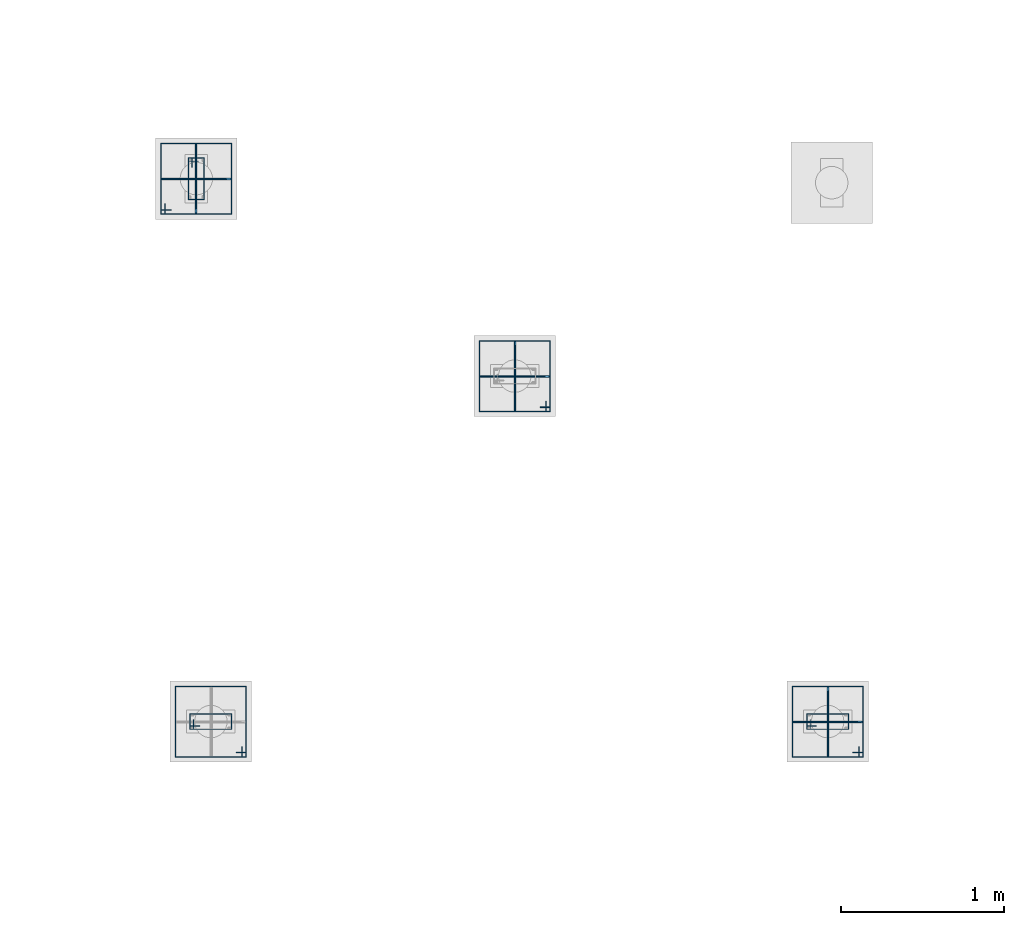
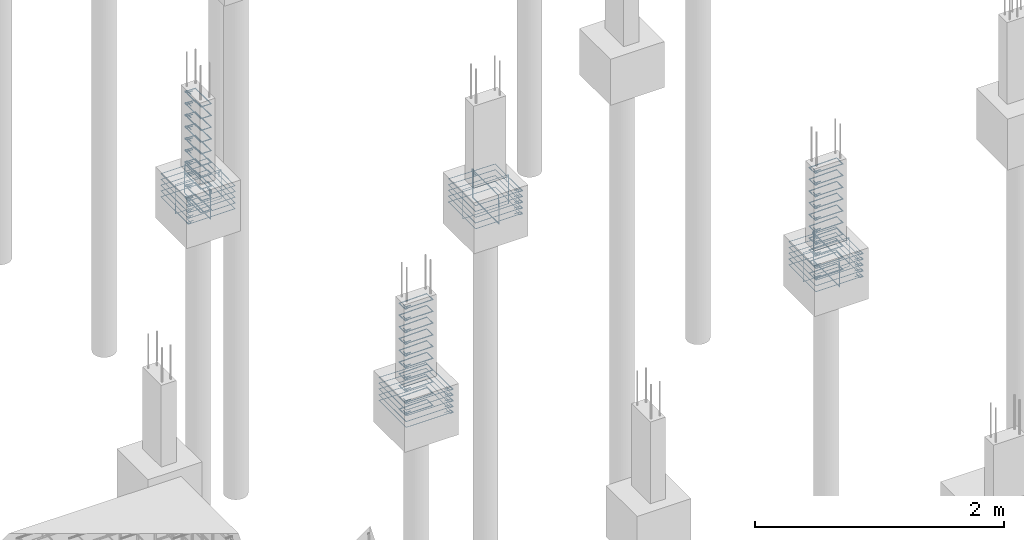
# One storey, part 79 of 119: 56 reinforcing bars.
"""IFC4 building model written with IfcOpenShell, lengths in centimetres."""

import ifcopenshell
import ifcopenshell.guid

model = None  # the IFC model being written
_history = None  # IfcOwnerHistory: only IFC2X3 demands one
_inside = {}  # id of a spatial element -> (the spatial element, [elements in it])
_under = {}  # id of a project, library or spatial element -> (it, [spatial elements below it])
_declared = {}  # id of a project -> (the project, [libraries it declares])
_typed = {}  # id of a type object -> (the type object, [elements of that type])
_made_of = {}  # id of a material, layer set ... -> (it, [elements and type objects made of it])


def new_model(schema):
    """Start an empty IFC model of exactly this schema.

    Asked for "IFC4X3", IfcOpenShell would pick the latest addendum, in which some entities
    have other attributes; the version numbers below select the first issue.
    IFC2X3 requires an IfcOwnerHistory on every rooted entity: one is made here for all.
    """
    global model, _history
    if schema == "IFC4X3":
        model = ifcopenshell.file(schema_version=(4, 3, 0, 0))
    else:
        model = ifcopenshell.file(schema=schema)
    _inside.clear()
    _under.clear()
    _declared.clear()
    _typed.clear()
    _made_of.clear()
    _history = None
    if model.schema == "IFC2X3":
        org = make("IfcOrganization", Name="unknown")
        user = make(
            "IfcPersonAndOrganization",
            ThePerson=make("IfcPerson", FamilyName="unknown"),
            TheOrganization=org,
        )
        app = make(
            "IfcApplication",
            ApplicationDeveloper=org,
            Version="unknown",
            ApplicationFullName="unknown",
            ApplicationIdentifier="unknown",
        )
        _history = make(
            "IfcOwnerHistory",
            OwningUser=user,
            OwningApplication=app,
            ChangeAction="ADDED",
            CreationDate=0,
        )
    return model


def make(cls, **values):
    """One entity of the class cls with the attributes given. An attribute that is None is left unset."""
    return model.create_entity(
        cls, **{name: value for name, value in values.items() if value is not None}
    )


def entity(cls, *values):
    """Any entity or typed value of the class cls, its attributes in the order of the schema. None: left unset."""
    e = model.create_entity(cls)
    for i, value in enumerate(values):
        if value is not None:
            e[i] = value
    return e


def rooted(cls, **values):
    """An entity with a GlobalId (a new one), such as an element, a storey or a relation."""
    return make(cls, GlobalId=ifcopenshell.guid.new(), OwnerHistory=_history, **values)


def si_unit(unit_type, name, prefix=None):
    """IfcSIUnit, for example si_unit("LENGTHUNIT", "METRE", prefix="MILLI")."""
    return make("IfcSIUnit", UnitType=unit_type, Prefix=prefix, Name=name)


def derived_unit(unit_type, elements):
    """IfcDerivedUnit: a product of units, each with its exponent."""
    return make(
        "IfcDerivedUnit",
        Elements=[
            make("IfcDerivedUnitElement", Unit=unit, Exponent=power)
            for unit, power in elements
        ],
        UnitType=unit_type,
    )


def assignment(units):
    """IfcUnitAssignment: the units of a project."""
    return None if units is None else make("IfcUnitAssignment", Units=units)


def point(xyz):
    """IfcCartesianPoint."""
    return None if xyz is None else make("IfcCartesianPoint", Coordinates=xyz)


def direction(xyz):
    """IfcDirection."""
    return None if xyz is None else make("IfcDirection", DirectionRatios=xyz)


def frame(location, z_axis=None, x_axis=None):
    """IfcAxis2Placement3D, a coordinate frame: its origin and axes. An axis left out is left unset."""
    return make(
        "IfcAxis2Placement3D",
        Location=point(location),
        Axis=direction(z_axis),
        RefDirection=direction(x_axis),
    )


def origin_with_axes():
    """The frame at (0, 0, 0) with the z axis (0, 0, 1) and the x axis (1, 0, 0) written out."""
    return frame((0.0, 0.0, 0.0), z_axis=(0.0, 0.0, 1.0), x_axis=(1.0, 0.0, 0.0))


def place(relative_to, where):
    """IfcLocalPlacement: puts the frame where relative to a parent placement (None: the world)."""
    return make(
        "IfcLocalPlacement", PlacementRelTo=relative_to, RelativePlacement=where
    )


def context(
    kind, dimensions, precision=None, world=None, true_north=None, identifier=None
):
    """IfcGeometricRepresentationContext, for example the 3D "Model" context."""
    return make(
        "IfcGeometricRepresentationContext",
        ContextIdentifier=identifier,
        ContextType=kind,
        CoordinateSpaceDimension=dimensions,
        Precision=precision,
        WorldCoordinateSystem=world,
        TrueNorth=true_north,
    )


def project(units=None, contexts=None):
    """IfcProject with its units and contexts."""
    return rooted(
        "IfcProject",
        Name="project",
        RepresentationContexts=contexts,
        UnitsInContext=assignment(units),
    )


def spatial(cls, under=None, at=None, **own):
    """A site, building, storey or space (cls), placed at a placement, below another one or the project."""
    s = rooted(cls, ObjectPlacement=at, **own)
    if under is not None:
        _under.setdefault(under.id(), (under, []))[1].append(s)
    return s


def shape(context_of_items, identifier, shape_type, items):
    """IfcShapeRepresentation: the items that make up one representation, for example the "Body"."""
    return make(
        "IfcShapeRepresentation",
        ContextOfItems=context_of_items,
        RepresentationIdentifier=identifier,
        RepresentationType=shape_type,
        Items=items,
    )


def source(mapping_origin, context_of_items, identifier, shape_type, items):
    """IfcRepresentationMap: a shape defined once, which mapped items show again and again."""
    return make(
        "IfcRepresentationMap",
        MappingOrigin=mapping_origin,
        MappedRepresentation=shape(context_of_items, identifier, shape_type, items),
    )


def transform(
    local_origin,
    x_axis=None,
    y_axis=None,
    z_axis=None,
    scale=None,
    scale2=None,
    scale3=None,
    uniform=True,
):
    """IfcCartesianTransformationOperator3D, or its non-uniform kind. x_axis, y_axis, z_axis: its Axis1, 2, 3."""
    if uniform:
        return make(
            "IfcCartesianTransformationOperator3D",
            Axis1=direction(x_axis),
            Axis2=direction(y_axis),
            LocalOrigin=point(local_origin),
            Scale=scale,
            Axis3=direction(z_axis),
        )
    return make(
        "IfcCartesianTransformationOperator3DnonUniform",
        Axis1=direction(x_axis),
        Axis2=direction(y_axis),
        LocalOrigin=point(local_origin),
        Scale=scale,
        Axis3=direction(z_axis),
        Scale2=scale2,
        Scale3=scale3,
    )


def mapped(mapping_source, mapping_target):
    """IfcMappedItem: shows the shape of a source again, moved by a transform."""
    return make(
        "IfcMappedItem", MappingSource=mapping_source, MappingTarget=mapping_target
    )


def made_of(thing, what):
    """Note that an element or type object is made of a material, layer set ...; save() writes the relation."""
    if what is not None:
        _made_of.setdefault(what.id(), (what, []))[1].append(thing)
    return thing


def element(
    cls,
    number,
    at=None,
    inside=None,
    cuts=None,
    type_object=None,
    material=None,
    context=None,
    identifier="Body",
    shape_type=None,
    held_by="IfcProductDefinitionShape",
    body=None,
    shapes=None,
    **own,
):
    """One element of the class cls, such as IfcWall. Its Tag is "e" and its number.

    at: its placement. inside: the storey or other place that contains it. cuts: it is an
    opening in that element (IfcRelVoidsElement). A single representation is given by context,
    identifier, shape_type and body (its items); several are given by shapes. held_by: the class
    of the entity that holds the representations. save() writes the other relations.
    """
    e = rooted(cls, Tag="e%d" % number, ObjectPlacement=at, **own)
    if body is not None:
        shapes = [shape(context, identifier, shape_type, body)]
    if shapes is not None:
        e.Representation = make(held_by, Representations=shapes)
    if inside is not None:
        _inside.setdefault(inside.id(), (inside, []))[1].append(e)
    if cuts is not None:
        rooted(
            "IfcRelVoidsElement", RelatingBuildingElement=cuts, RelatedOpeningElement=e
        )
    if type_object is not None:
        _typed.setdefault(type_object.id(), (type_object, []))[1].append(e)
    return made_of(e, material)


def aggregate(whole, parts):
    """IfcRelAggregates: a whole, such as a stair, and the parts it consists of."""
    return rooted("IfcRelAggregates", RelatingObject=whole, RelatedObjects=parts)


def save(model, path):
    """Write the relations noted so far, then the file.

    IfcRelAggregates (storeys below a building ...), IfcRelContainedInSpatialStructure (elements
    in a storey), IfcRelDefinesByType, IfcRelAssociatesMaterial and IfcRelDeclares: one each for
    every whole, place, type object, material and project.
    """
    for whole, parts in _under.values():
        aggregate(whole, parts)
    for where, things in _inside.values():
        rooted(
            "IfcRelContainedInSpatialStructure",
            RelatedElements=things,
            RelatingStructure=where,
        )
    for kind, things in _typed.values():
        rooted("IfcRelDefinesByType", RelatedObjects=things, RelatingType=kind)
    for what, things in _made_of.values():
        rooted("IfcRelAssociatesMaterial", RelatedObjects=things, RelatingMaterial=what)
    for by, libraries in _declared.values():
        rooted("IfcRelDeclares", RelatingContext=by, RelatedDefinitions=libraries)
    model.write(path)


model = new_model("IFC4")

# Units and contexts
model_context = context("Model", 3, precision=1e-05, world=origin_with_axes(), identifier="Body")
ifc_project = project(units=[si_unit("LENGTHUNIT", "METRE", prefix="CENTI"), si_unit("VOLUMEUNIT", "CUBIC_METRE"), si_unit("AREAUNIT", "SQUARE_METRE"), si_unit("POWERUNIT", "WATT"), si_unit("LUMINOUSFLUXUNIT", "LUMEN"), si_unit("ELECTRICCURRENTUNIT", "AMPERE"), si_unit("PRESSUREUNIT", "PASCAL", prefix="KILO"), si_unit("MASSUNIT", "GRAM", prefix="KILO"), si_unit("PLANEANGLEUNIT", "RADIAN"), derived_unit("VOLUMETRICFLOWRATEUNIT", [(si_unit("LENGTHUNIT", "METRE"), 3), (si_unit("TIMEUNIT", "SECOND"), -1)])], contexts=[model_context])

# Site, building, storey
site_placement = place(None, frame((-4000.0, 0.0, 0.0), z_axis=(0.0, 0.0, 1.0), x_axis=(1.0, 0.0, 0.0)))
site = spatial("IfcSite", under=ifc_project, at=site_placement, Name="PADRÃO")
building_placement = place(site_placement, frame((0.0, 0.0, -14.0)))
building = spatial("IfcBuilding", under=site, at=building_placement, Name="CRECHE PRÉ-ESCOLA TIPO 2")
storey_placement = place(building_placement, origin_with_axes())
storey = spatial("IfcBuildingStorey", under=building, at=storey_placement, Name="FUNDAÇÃO", CompositionType="ELEMENT", Elevation=-14.0)

# Reinforcing bars
shared_shape_1 = source(origin_with_axes(), model_context, "Body", "AdvancedSweptSolid", [
    entity("IfcSweptDiskSolid", entity("IfcCompositeCurve", [entity("IfcCompositeCurveSegment", "CONTINUOUS", True, entity("IfcPolyline", [entity("IfcCartesianPoint", [4.25, 21.75, 0.0]), entity("IfcCartesianPoint", [4.25, 27.75, 0.0])])), entity("IfcCompositeCurveSegment", "CONTINUOUS", True, entity("IfcPolyline", [entity("IfcCartesianPoint", [4.25, 27.75, 0.0]), entity("IfcCartesianPoint", [2.25, 27.75, 0.0])])), entity("IfcCompositeCurveSegment", "CONTINUOUS", True, entity("IfcPolyline", [entity("IfcCartesianPoint", [2.25, 27.75, 0.0]), entity("IfcCartesianPoint", [2.25, 2.25, 0.0])])), entity("IfcCompositeCurveSegment", "CONTINUOUS", True, entity("IfcPolyline", [entity("IfcCartesianPoint", [2.25, 2.25, 0.0]), entity("IfcCartesianPoint", [11.75, 2.25, 0.0])])), entity("IfcCompositeCurveSegment", "CONTINUOUS", True, entity("IfcPolyline", [entity("IfcCartesianPoint", [11.75, 2.25, 0.0]), entity("IfcCartesianPoint", [11.75, 27.75, -0.5])])), entity("IfcCompositeCurveSegment", "CONTINUOUS", True, entity("IfcPolyline", [entity("IfcCartesianPoint", [11.75, 27.75, -0.5]), entity("IfcCartesianPoint", [2.25, 27.75, -0.5])])), entity("IfcCompositeCurveSegment", "CONTINUOUS", True, entity("IfcPolyline", [entity("IfcCartesianPoint", [2.25, 27.75, -0.5]), entity("IfcCartesianPoint", [2.25, 25.75, -0.5])])), entity("IfcCompositeCurveSegment", "CONTINUOUS", True, entity("IfcPolyline", [entity("IfcCartesianPoint", [2.25, 25.75, -0.5]), entity("IfcCartesianPoint", [8.25, 25.75, -0.5])]))], False), 0.25),
])
for number, where, z_axis, x_axis, name in (
    (1, (3151.0, 408.01, -28.75), (0.0, 0.0, 1.0), (0.0, 1.0, 0.0), "P148 - Estribo"),
    (2, (3151.0, 408.01, -109.25), (0.0, 0.0, 1.0), (0.0, 1.0, 0.0), "P148 - Estribo"),
    (3, (3151.0, 408.01, -5.75), (0.0, 0.0, 1.0), (0.0, 1.0, 0.0), "P148 - Estribo"),
    (4, (3151.0, 408.01, -17.25), (0.0, 0.0, 1.0), (0.0, 1.0, 0.0), "P148 - Estribo"),
    (5, (3151.0, 408.01, -40.25), (0.0, 0.0, 1.0), (0.0, 1.0, 0.0), "P148 - Estribo"),
    (6, (3151.0, 408.01, -51.75), (0.0, 0.0, 1.0), (0.0, 1.0, 0.0), "P148 - Estribo"),
    (7, (3151.0, 408.01, -63.25), (0.0, 0.0, 1.0), (0.0, 1.0, 0.0), "P148 - Estribo"),
    (8, (3151.0, 408.01, -74.75), (0.0, 0.0, 1.0), (0.0, 1.0, 0.0), "P148 - Estribo"),
    (9, (3151.0, 408.01, -86.25), (0.0, 0.0, 1.0), (0.0, 1.0, 0.0), "P148 - Estribo"),
    (10, (3151.0, 408.01, -97.75), (0.0, 0.0, 1.0), (0.0, 1.0, 0.0), "P148 - Estribo"),
):
    element("IfcReinforcingBar", number, at=place(storey_placement, frame(where, z_axis=z_axis, x_axis=x_axis)), inside=storey, Name=name, BarLength=0.0, CrossSectionArea=1.9634954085e-05, NominalDiameter=0.5, PredefinedType="MAIN", context=model_context, shape_type="MappedRepresentation", body=[
        mapped(shared_shape_1, transform((0.0, 0.0, 0.0), scale=1.0)),
    ])
shared_shape_2 = source(origin_with_axes(), model_context, "Body", "AdvancedSweptSolid", [
    entity("IfcSweptDiskSolid", entity("IfcCompositeCurve", [entity("IfcCompositeCurveSegment", "CONTINUOUS", True, entity("IfcPolyline", [entity("IfcCartesianPoint", [3155.165, 399.585, 0.0]), entity("IfcCartesianPoint", [3155.165, 393.325, 0.0])])), entity("IfcCompositeCurveSegment", "CONTINUOUS", True, entity("IfcPolyline", [entity("IfcCartesianPoint", [3155.165, 393.325, 0.0]), entity("IfcCartesianPoint", [3157.685, 393.325, 0.0])])), entity("IfcCompositeCurveSegment", "CONTINUOUS", True, entity("IfcPolyline", [entity("IfcCartesianPoint", [3157.685, 393.325, 0.0]), entity("IfcCartesianPoint", [3157.685, 436.695, 0.0])])), entity("IfcCompositeCurveSegment", "CONTINUOUS", True, entity("IfcPolyline", [entity("IfcCartesianPoint", [3157.685, 436.695, 0.0]), entity("IfcCartesianPoint", [3114.315, 436.695, 0.63])])), entity("IfcCompositeCurveSegment", "CONTINUOUS", True, entity("IfcPolyline", [entity("IfcCartesianPoint", [3114.315, 436.695, 0.63]), entity("IfcCartesianPoint", [3114.315, 393.325, 0.63])])), entity("IfcCompositeCurveSegment", "CONTINUOUS", True, entity("IfcPolyline", [entity("IfcCartesianPoint", [3114.315, 393.325, 0.63]), entity("IfcCartesianPoint", [3157.685, 393.325, 0.63])])), entity("IfcCompositeCurveSegment", "CONTINUOUS", True, entity("IfcPolyline", [entity("IfcCartesianPoint", [3157.685, 393.325, 0.63]), entity("IfcCartesianPoint", [3157.685, 395.845, 0.63])])), entity("IfcCompositeCurveSegment", "CONTINUOUS", True, entity("IfcPolyline", [entity("IfcCartesianPoint", [3157.685, 395.845, 0.63]), entity("IfcCartesianPoint", [3151.425, 395.845, 0.63])]))], False), 0.315),
])
for number, where, z_axis, x_axis, name in (
    (11, (0.0, 0.0, -86.575), (0.0, 0.0, 1.0), (1.0, 0.0, 0.0), "P148 - Blocos (estribos)"),
    (12, (0.0, 0.0, -92.225), (0.0, 0.0, 1.0), (1.0, 0.0, 0.0), "P148 - Blocos (estribos)"),
    (13, (0.0, 0.0, -97.875), (0.0, 0.0, 1.0), (1.0, 0.0, 0.0), "P148 - Blocos (estribos)"),
    (14, (0.0, 0.0, -109.175), (0.0, 0.0, 1.0), (1.0, 0.0, 0.0), "P148 - Blocos (estribos)"),
    (15, (0.0, 0.0, -103.525), (0.0, 0.0, 1.0), (1.0, 0.0, 0.0), "P148 - Blocos (estribos)"),
):
    element("IfcReinforcingBar", number, at=place(storey_placement, frame(where, z_axis=z_axis, x_axis=x_axis)), inside=storey, Name=name, BarLength=0.0, CrossSectionArea=3.1172453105e-05, NominalDiameter=0.63, PredefinedType="MAIN", context=model_context, shape_type="MappedRepresentation", body=[
        mapped(shared_shape_2, transform((0.0, 0.0, 0.0), scale=1.0)),
    ])
shared_shape_3 = source(origin_with_axes(), model_context, "Body", "AdvancedSweptSolid", [
    entity("IfcSweptDiskSolid", entity("IfcCompositeCurve", [entity("IfcCompositeCurveSegment", "CONTINUOUS", True, entity("IfcPolyline", [entity("IfcCartesianPoint", [-15.12, -12.0, 0.0]), entity("IfcCartesianPoint", [-21.12, -12.0, 0.0])])), entity("IfcCompositeCurveSegment", "CONTINUOUS", True, entity("IfcPolyline", [entity("IfcCartesianPoint", [-21.12, -12.0, 0.0]), entity("IfcCartesianPoint", [-21.12, -14.0, 0.0])])), entity("IfcCompositeCurveSegment", "CONTINUOUS", True, entity("IfcPolyline", [entity("IfcCartesianPoint", [-21.12, -14.0, 0.0]), entity("IfcCartesianPoint", [21.12, -14.0, 0.0])])), entity("IfcCompositeCurveSegment", "CONTINUOUS", True, entity("IfcPolyline", [entity("IfcCartesianPoint", [21.12, -14.0, 0.0]), entity("IfcCartesianPoint", [21.12, 14.0, 0.5])])), entity("IfcCompositeCurveSegment", "CONTINUOUS", True, entity("IfcPolyline", [entity("IfcCartesianPoint", [21.12, 14.0, 0.5]), entity("IfcCartesianPoint", [-21.12, 14.0, 0.5])])), entity("IfcCompositeCurveSegment", "CONTINUOUS", True, entity("IfcPolyline", [entity("IfcCartesianPoint", [-21.12, 14.0, 0.5]), entity("IfcCartesianPoint", [-21.12, -14.0, 0.5])])), entity("IfcCompositeCurveSegment", "CONTINUOUS", True, entity("IfcPolyline", [entity("IfcCartesianPoint", [-21.12, -14.0, 0.5]), entity("IfcCartesianPoint", [-19.12, -14.0, 0.5])])), entity("IfcCompositeCurveSegment", "CONTINUOUS", True, entity("IfcPolyline", [entity("IfcCartesianPoint", [-19.12, -14.0, 0.5]), entity("IfcCartesianPoint", [-19.12, -8.0, 0.5])]))], False), 0.25),
])
reinforcing_bar_1_placement = place(storey_placement, frame((3136.0, 415.01, -97.75), z_axis=(0.0, -1.0, 0.0), x_axis=(-1.0, 0.0, 0.0)))
element("IfcReinforcingBar", 16, at=reinforcing_bar_1_placement, inside=storey, Name="P148 - Blocos (estribos)", BarLength=0.0, CrossSectionArea=1.9634954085e-05, NominalDiameter=0.5, PredefinedType="MAIN", context=model_context, shape_type="MappedRepresentation", body=[
    mapped(shared_shape_3, transform((0.0, 0.0, 0.0), scale=1.0)),
])
shared_shape_4 = source(origin_with_axes(), model_context, "Body", "AdvancedSweptSolid", [
    entity("IfcSweptDiskSolid", entity("IfcCompositeCurve", [entity("IfcCompositeCurveSegment", "CONTINUOUS", True, entity("IfcPolyline", [entity("IfcCartesianPoint", [-15.12, -12.0, 0.0]), entity("IfcCartesianPoint", [-21.12, -12.0, 0.0])])), entity("IfcCompositeCurveSegment", "CONTINUOUS", True, entity("IfcPolyline", [entity("IfcCartesianPoint", [-21.12, -12.0, 0.0]), entity("IfcCartesianPoint", [-21.12, -14.0, 0.0])])), entity("IfcCompositeCurveSegment", "CONTINUOUS", True, entity("IfcPolyline", [entity("IfcCartesianPoint", [-21.12, -14.0, 0.0]), entity("IfcCartesianPoint", [21.12, -14.0, 0.0])])), entity("IfcCompositeCurveSegment", "CONTINUOUS", True, entity("IfcPolyline", [entity("IfcCartesianPoint", [21.12, -14.0, 0.0]), entity("IfcCartesianPoint", [21.12, 14.0, 0.5])])), entity("IfcCompositeCurveSegment", "CONTINUOUS", True, entity("IfcPolyline", [entity("IfcCartesianPoint", [21.12, 14.0, 0.5]), entity("IfcCartesianPoint", [-21.12, 14.0, 0.5])])), entity("IfcCompositeCurveSegment", "CONTINUOUS", True, entity("IfcPolyline", [entity("IfcCartesianPoint", [-21.12, 14.0, 0.5]), entity("IfcCartesianPoint", [-21.12, -14.0, 0.5])])), entity("IfcCompositeCurveSegment", "CONTINUOUS", True, entity("IfcPolyline", [entity("IfcCartesianPoint", [-21.12, -14.0, 0.5]), entity("IfcCartesianPoint", [-19.12, -14.0, 0.5])])), entity("IfcCompositeCurveSegment", "CONTINUOUS", True, entity("IfcPolyline", [entity("IfcCartesianPoint", [-19.12, -14.0, 0.5]), entity("IfcCartesianPoint", [-19.12, -8.0, 0.5])]))], False), 0.25),
])
reinforcing_bar_2_placement = place(storey_placement, frame((3136.0, 415.01, -97.75), z_axis=(1.0, 0.0, 0.0), x_axis=(0.0, -1.0, 0.0)))
element("IfcReinforcingBar", 17, at=reinforcing_bar_2_placement, inside=storey, Name="P148 - Blocos (estribos)", BarLength=0.0, CrossSectionArea=1.9634954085e-05, NominalDiameter=0.5, PredefinedType="MAIN", context=model_context, shape_type="MappedRepresentation", body=[
    mapped(shared_shape_4, transform((0.0, 0.0, 0.0), scale=1.0)),
])
shared_shape_5 = source(origin_with_axes(), model_context, "Body", "AdvancedSweptSolid", [
    entity("IfcSweptDiskSolid", entity("IfcCompositeCurve", [entity("IfcCompositeCurveSegment", "CONTINUOUS", True, entity("IfcPolyline", [entity("IfcCartesianPoint", [4.25, 21.75, 0.0]), entity("IfcCartesianPoint", [4.25, 27.75, 0.0])])), entity("IfcCompositeCurveSegment", "CONTINUOUS", True, entity("IfcPolyline", [entity("IfcCartesianPoint", [4.25, 27.75, 0.0]), entity("IfcCartesianPoint", [2.25, 27.75, 0.0])])), entity("IfcCompositeCurveSegment", "CONTINUOUS", True, entity("IfcPolyline", [entity("IfcCartesianPoint", [2.25, 27.75, 0.0]), entity("IfcCartesianPoint", [2.25, 2.25, 0.0])])), entity("IfcCompositeCurveSegment", "CONTINUOUS", True, entity("IfcPolyline", [entity("IfcCartesianPoint", [2.25, 2.25, 0.0]), entity("IfcCartesianPoint", [11.75, 2.25, 0.0])])), entity("IfcCompositeCurveSegment", "CONTINUOUS", True, entity("IfcPolyline", [entity("IfcCartesianPoint", [11.75, 2.25, 0.0]), entity("IfcCartesianPoint", [11.75, 27.75, -0.5])])), entity("IfcCompositeCurveSegment", "CONTINUOUS", True, entity("IfcPolyline", [entity("IfcCartesianPoint", [11.75, 27.75, -0.5]), entity("IfcCartesianPoint", [2.25, 27.75, -0.5])])), entity("IfcCompositeCurveSegment", "CONTINUOUS", True, entity("IfcPolyline", [entity("IfcCartesianPoint", [2.25, 27.75, -0.5]), entity("IfcCartesianPoint", [2.25, 25.75, -0.5])])), entity("IfcCompositeCurveSegment", "CONTINUOUS", True, entity("IfcPolyline", [entity("IfcCartesianPoint", [2.25, 25.75, -0.5]), entity("IfcCartesianPoint", [8.25, 25.75, -0.5])]))], False), 0.25),
])
for number, where, z_axis, x_axis, name in (
    (18, (2740.52, 734.08, -63.25), (0.0, 0.0, 1.0), (1.0, 0.0, 0.0), "P131 - Estribo"),
    (19, (2740.52, 734.08, -40.25), (0.0, 0.0, 1.0), (1.0, 0.0, 0.0), "P131 - Estribo"),
    (20, (2740.52, 734.08, -97.75), (0.0, 0.0, 1.0), (1.0, 0.0, 0.0), "P131 - Estribo"),
    (21, (2740.52, 734.08, -86.25), (0.0, 0.0, 1.0), (1.0, 0.0, 0.0), "P131 - Estribo"),
    (22, (2740.52, 734.08, -74.75), (0.0, 0.0, 1.0), (1.0, 0.0, 0.0), "P131 - Estribo"),
    (23, (2740.52, 734.08, -109.25), (0.0, 0.0, 1.0), (1.0, 0.0, 0.0), "P131 - Estribo"),
    (24, (2740.52, 734.08, -5.75), (0.0, 0.0, 1.0), (1.0, 0.0, 0.0), "P131 - Estribo"),
    (25, (2740.52, 734.08, -17.25), (0.0, 0.0, 1.0), (1.0, 0.0, 0.0), "P131 - Estribo"),
    (26, (2740.52, 734.08, -28.75), (0.0, 0.0, 1.0), (1.0, 0.0, 0.0), "P131 - Estribo"),
    (27, (2740.52, 734.08, -51.75), (0.0, 0.0, 1.0), (1.0, 0.0, 0.0), "P131 - Estribo"),
):
    element("IfcReinforcingBar", number, at=place(storey_placement, frame(where, z_axis=z_axis, x_axis=x_axis)), inside=storey, Name=name, BarLength=0.0, CrossSectionArea=1.9634954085e-05, NominalDiameter=0.5, PredefinedType="MAIN", context=model_context, shape_type="MappedRepresentation", body=[
        mapped(shared_shape_5, transform((0.0, 0.0, 0.0), scale=1.0)),
    ])
shared_shape_6 = source(origin_with_axes(), model_context, "Body", "AdvancedSweptSolid", [
    entity("IfcSweptDiskSolid", entity("IfcCompositeCurve", [entity("IfcCompositeCurveSegment", "CONTINUOUS", True, entity("IfcPolyline", [entity("IfcCartesianPoint", [2732.095, 729.915, 0.0]), entity("IfcCartesianPoint", [2725.835, 729.915, 0.0])])), entity("IfcCompositeCurveSegment", "CONTINUOUS", True, entity("IfcPolyline", [entity("IfcCartesianPoint", [2725.835, 729.915, 0.0]), entity("IfcCartesianPoint", [2725.835, 727.395, 0.0])])), entity("IfcCompositeCurveSegment", "CONTINUOUS", True, entity("IfcPolyline", [entity("IfcCartesianPoint", [2725.835, 727.395, 0.0]), entity("IfcCartesianPoint", [2769.205, 727.395, 0.0])])), entity("IfcCompositeCurveSegment", "CONTINUOUS", True, entity("IfcPolyline", [entity("IfcCartesianPoint", [2769.205, 727.395, 0.0]), entity("IfcCartesianPoint", [2769.205, 770.765, 0.63])])), entity("IfcCompositeCurveSegment", "CONTINUOUS", True, entity("IfcPolyline", [entity("IfcCartesianPoint", [2769.205, 770.765, 0.63]), entity("IfcCartesianPoint", [2725.835, 770.765, 0.63])])), entity("IfcCompositeCurveSegment", "CONTINUOUS", True, entity("IfcPolyline", [entity("IfcCartesianPoint", [2725.835, 770.765, 0.63]), entity("IfcCartesianPoint", [2725.835, 727.395, 0.63])])), entity("IfcCompositeCurveSegment", "CONTINUOUS", True, entity("IfcPolyline", [entity("IfcCartesianPoint", [2725.835, 727.395, 0.63]), entity("IfcCartesianPoint", [2728.355, 727.395, 0.63])])), entity("IfcCompositeCurveSegment", "CONTINUOUS", True, entity("IfcPolyline", [entity("IfcCartesianPoint", [2728.355, 727.395, 0.63]), entity("IfcCartesianPoint", [2728.355, 733.655, 0.63])]))], False), 0.315),
])
for number, where, z_axis, x_axis, name in (
    (28, (0.0, 0.0, -86.575), (0.0, 0.0, 1.0), (1.0, 0.0, 0.0), "P131 - Blocos (estribos)"),
    (29, (0.0, 0.0, -92.225), (0.0, 0.0, 1.0), (1.0, 0.0, 0.0), "P131 - Blocos (estribos)"),
    (30, (0.0, 0.0, -97.875), (0.0, 0.0, 1.0), (1.0, 0.0, 0.0), "P131 - Blocos (estribos)"),
    (31, (0.0, 0.0, -103.525), (0.0, 0.0, 1.0), (1.0, 0.0, 0.0), "P131 - Blocos (estribos)"),
    (32, (0.0, 0.0, -109.175), (0.0, 0.0, 1.0), (1.0, 0.0, 0.0), "P131 - Blocos (estribos)"),
):
    element("IfcReinforcingBar", number, at=place(storey_placement, frame(where, z_axis=z_axis, x_axis=x_axis)), inside=storey, Name=name, BarLength=0.0, CrossSectionArea=3.1172453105e-05, NominalDiameter=0.63, PredefinedType="MAIN", context=model_context, shape_type="MappedRepresentation", body=[
        mapped(shared_shape_6, transform((0.0, 0.0, 0.0), scale=1.0)),
    ])
shared_shape_7 = source(origin_with_axes(), model_context, "Body", "AdvancedSweptSolid", [
    entity("IfcSweptDiskSolid", entity("IfcCompositeCurve", [entity("IfcCompositeCurveSegment", "CONTINUOUS", True, entity("IfcPolyline", [entity("IfcCartesianPoint", [-15.12, -12.0, 0.0]), entity("IfcCartesianPoint", [-21.12, -12.0, 0.0])])), entity("IfcCompositeCurveSegment", "CONTINUOUS", True, entity("IfcPolyline", [entity("IfcCartesianPoint", [-21.12, -12.0, 0.0]), entity("IfcCartesianPoint", [-21.12, -14.0, 0.0])])), entity("IfcCompositeCurveSegment", "CONTINUOUS", True, entity("IfcPolyline", [entity("IfcCartesianPoint", [-21.12, -14.0, 0.0]), entity("IfcCartesianPoint", [21.12, -14.0, 0.0])])), entity("IfcCompositeCurveSegment", "CONTINUOUS", True, entity("IfcPolyline", [entity("IfcCartesianPoint", [21.12, -14.0, 0.0]), entity("IfcCartesianPoint", [21.12, 14.0, 0.5])])), entity("IfcCompositeCurveSegment", "CONTINUOUS", True, entity("IfcPolyline", [entity("IfcCartesianPoint", [21.12, 14.0, 0.5]), entity("IfcCartesianPoint", [-21.12, 14.0, 0.5])])), entity("IfcCompositeCurveSegment", "CONTINUOUS", True, entity("IfcPolyline", [entity("IfcCartesianPoint", [-21.12, 14.0, 0.5]), entity("IfcCartesianPoint", [-21.12, -14.0, 0.5])])), entity("IfcCompositeCurveSegment", "CONTINUOUS", True, entity("IfcPolyline", [entity("IfcCartesianPoint", [-21.12, -14.0, 0.5]), entity("IfcCartesianPoint", [-19.12, -14.0, 0.5])])), entity("IfcCompositeCurveSegment", "CONTINUOUS", True, entity("IfcPolyline", [entity("IfcCartesianPoint", [-19.12, -14.0, 0.5]), entity("IfcCartesianPoint", [-19.12, -8.0, 0.5])]))], False), 0.25),
])
reinforcing_bar_3_placement = place(storey_placement, frame((2747.52, 749.08, -97.75), z_axis=(-1.0, 0.0, 0.0), x_axis=(0.0, 1.0, 0.0)))
element("IfcReinforcingBar", 33, at=reinforcing_bar_3_placement, inside=storey, Name="P131 - Blocos (estribos)", BarLength=0.0, CrossSectionArea=1.9634954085e-05, NominalDiameter=0.5, PredefinedType="MAIN", context=model_context, shape_type="MappedRepresentation", body=[
    mapped(shared_shape_7, transform((0.0, 0.0, 0.0), scale=1.0)),
])
shared_shape_8 = source(origin_with_axes(), model_context, "Body", "AdvancedSweptSolid", [
    entity("IfcSweptDiskSolid", entity("IfcCompositeCurve", [entity("IfcCompositeCurveSegment", "CONTINUOUS", True, entity("IfcPolyline", [entity("IfcCartesianPoint", [-15.12, -12.0, 0.0]), entity("IfcCartesianPoint", [-21.12, -12.0, 0.0])])), entity("IfcCompositeCurveSegment", "CONTINUOUS", True, entity("IfcPolyline", [entity("IfcCartesianPoint", [-21.12, -12.0, 0.0]), entity("IfcCartesianPoint", [-21.12, -14.0, 0.0])])), entity("IfcCompositeCurveSegment", "CONTINUOUS", True, entity("IfcPolyline", [entity("IfcCartesianPoint", [-21.12, -14.0, 0.0]), entity("IfcCartesianPoint", [21.12, -14.0, 0.0])])), entity("IfcCompositeCurveSegment", "CONTINUOUS", True, entity("IfcPolyline", [entity("IfcCartesianPoint", [21.12, -14.0, 0.0]), entity("IfcCartesianPoint", [21.12, 14.0, 0.5])])), entity("IfcCompositeCurveSegment", "CONTINUOUS", True, entity("IfcPolyline", [entity("IfcCartesianPoint", [21.12, 14.0, 0.5]), entity("IfcCartesianPoint", [-21.12, 14.0, 0.5])])), entity("IfcCompositeCurveSegment", "CONTINUOUS", True, entity("IfcPolyline", [entity("IfcCartesianPoint", [-21.12, 14.0, 0.5]), entity("IfcCartesianPoint", [-21.12, -14.0, 0.5])])), entity("IfcCompositeCurveSegment", "CONTINUOUS", True, entity("IfcPolyline", [entity("IfcCartesianPoint", [-21.12, -14.0, 0.5]), entity("IfcCartesianPoint", [-19.12, -14.0, 0.5])])), entity("IfcCompositeCurveSegment", "CONTINUOUS", True, entity("IfcPolyline", [entity("IfcCartesianPoint", [-19.12, -14.0, 0.5]), entity("IfcCartesianPoint", [-19.12, -8.0, 0.5])]))], False), 0.25),
])
reinforcing_bar_4_placement = place(storey_placement, frame((2747.52, 749.08, -97.75), z_axis=(0.0, -1.0, 0.0), x_axis=(-1.0, 0.0, 0.0)))
element("IfcReinforcingBar", 34, at=reinforcing_bar_4_placement, inside=storey, Name="P131 - Blocos (estribos)", BarLength=0.0, CrossSectionArea=1.9634954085e-05, NominalDiameter=0.5, PredefinedType="MAIN", context=model_context, shape_type="MappedRepresentation", body=[
    mapped(shared_shape_8, transform((0.0, 0.0, 0.0), scale=1.0)),
])
shared_shape_9 = source(origin_with_axes(), model_context, "Body", "AdvancedSweptSolid", [
    entity("IfcSweptDiskSolid", entity("IfcCompositeCurve", [entity("IfcCompositeCurveSegment", "CONTINUOUS", True, entity("IfcPolyline", [entity("IfcCartesianPoint", [2962.615, 612.155, 0.0]), entity("IfcCartesianPoint", [2962.615, 605.895, 0.0])])), entity("IfcCompositeCurveSegment", "CONTINUOUS", True, entity("IfcPolyline", [entity("IfcCartesianPoint", [2962.615, 605.895, 0.0]), entity("IfcCartesianPoint", [2965.135, 605.895, 0.0])])), entity("IfcCompositeCurveSegment", "CONTINUOUS", True, entity("IfcPolyline", [entity("IfcCartesianPoint", [2965.135, 605.895, 0.0]), entity("IfcCartesianPoint", [2965.135, 649.265, 0.0])])), entity("IfcCompositeCurveSegment", "CONTINUOUS", True, entity("IfcPolyline", [entity("IfcCartesianPoint", [2965.135, 649.265, 0.0]), entity("IfcCartesianPoint", [2921.765, 649.265, 0.63])])), entity("IfcCompositeCurveSegment", "CONTINUOUS", True, entity("IfcPolyline", [entity("IfcCartesianPoint", [2921.765, 649.265, 0.63]), entity("IfcCartesianPoint", [2921.765, 605.895, 0.63])])), entity("IfcCompositeCurveSegment", "CONTINUOUS", True, entity("IfcPolyline", [entity("IfcCartesianPoint", [2921.765, 605.895, 0.63]), entity("IfcCartesianPoint", [2965.135, 605.895, 0.63])])), entity("IfcCompositeCurveSegment", "CONTINUOUS", True, entity("IfcPolyline", [entity("IfcCartesianPoint", [2965.135, 605.895, 0.63]), entity("IfcCartesianPoint", [2965.135, 608.415, 0.63])])), entity("IfcCompositeCurveSegment", "CONTINUOUS", True, entity("IfcPolyline", [entity("IfcCartesianPoint", [2965.135, 608.415, 0.63]), entity("IfcCartesianPoint", [2958.875, 608.415, 0.63])]))], False), 0.315),
])
for number, where, z_axis, x_axis, name in (
    (35, (0.0, 0.0, -86.575), (0.0, 0.0, 1.0), (1.0, 0.0, 0.0), "P134 - Blocos (estribos)"),
    (36, (0.0, 0.0, -92.225), (0.0, 0.0, 1.0), (1.0, 0.0, 0.0), "P134 - Blocos (estribos)"),
    (37, (0.0, 0.0, -109.175), (0.0, 0.0, 1.0), (1.0, 0.0, 0.0), "P134 - Blocos (estribos)"),
    (38, (0.0, 0.0, -103.525), (0.0, 0.0, 1.0), (1.0, 0.0, 0.0), "P134 - Blocos (estribos)"),
    (39, (0.0, 0.0, -97.875), (0.0, 0.0, 1.0), (1.0, 0.0, 0.0), "P134 - Blocos (estribos)"),
):
    element("IfcReinforcingBar", number, at=place(storey_placement, frame(where, z_axis=z_axis, x_axis=x_axis)), inside=storey, Name=name, BarLength=0.0, CrossSectionArea=3.1172453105e-05, NominalDiameter=0.63, PredefinedType="MAIN", context=model_context, shape_type="MappedRepresentation", body=[
        mapped(shared_shape_9, transform((0.0, 0.0, 0.0), scale=1.0)),
    ])
shared_shape_10 = source(origin_with_axes(), model_context, "Body", "AdvancedSweptSolid", [
    entity("IfcSweptDiskSolid", entity("IfcCompositeCurve", [entity("IfcCompositeCurveSegment", "CONTINUOUS", True, entity("IfcPolyline", [entity("IfcCartesianPoint", [-15.12, -12.0, 0.0]), entity("IfcCartesianPoint", [-21.12, -12.0, 0.0])])), entity("IfcCompositeCurveSegment", "CONTINUOUS", True, entity("IfcPolyline", [entity("IfcCartesianPoint", [-21.12, -12.0, 0.0]), entity("IfcCartesianPoint", [-21.12, -14.0, 0.0])])), entity("IfcCompositeCurveSegment", "CONTINUOUS", True, entity("IfcPolyline", [entity("IfcCartesianPoint", [-21.12, -14.0, 0.0]), entity("IfcCartesianPoint", [21.12, -14.0, 0.0])])), entity("IfcCompositeCurveSegment", "CONTINUOUS", True, entity("IfcPolyline", [entity("IfcCartesianPoint", [21.12, -14.0, 0.0]), entity("IfcCartesianPoint", [21.12, 14.0, 0.5])])), entity("IfcCompositeCurveSegment", "CONTINUOUS", True, entity("IfcPolyline", [entity("IfcCartesianPoint", [21.12, 14.0, 0.5]), entity("IfcCartesianPoint", [-21.12, 14.0, 0.5])])), entity("IfcCompositeCurveSegment", "CONTINUOUS", True, entity("IfcPolyline", [entity("IfcCartesianPoint", [-21.12, 14.0, 0.5]), entity("IfcCartesianPoint", [-21.12, -14.0, 0.5])])), entity("IfcCompositeCurveSegment", "CONTINUOUS", True, entity("IfcPolyline", [entity("IfcCartesianPoint", [-21.12, -14.0, 0.5]), entity("IfcCartesianPoint", [-19.12, -14.0, 0.5])])), entity("IfcCompositeCurveSegment", "CONTINUOUS", True, entity("IfcPolyline", [entity("IfcCartesianPoint", [-19.12, -14.0, 0.5]), entity("IfcCartesianPoint", [-19.12, -8.0, 0.5])]))], False), 0.25),
])
reinforcing_bar_5_placement = place(storey_placement, frame((2943.45, 627.58, -97.75), z_axis=(0.0, -1.0, 0.0), x_axis=(-1.0, 0.0, 0.0)))
element("IfcReinforcingBar", 40, at=reinforcing_bar_5_placement, inside=storey, Name="P134 - Blocos (estribos)", BarLength=0.0, CrossSectionArea=1.9634954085e-05, NominalDiameter=0.5, PredefinedType="MAIN", context=model_context, shape_type="MappedRepresentation", body=[
    mapped(shared_shape_10, transform((0.0, 0.0, 0.0), scale=1.0)),
])
shared_shape_11 = source(origin_with_axes(), model_context, "Body", "AdvancedSweptSolid", [
    entity("IfcSweptDiskSolid", entity("IfcCompositeCurve", [entity("IfcCompositeCurveSegment", "CONTINUOUS", True, entity("IfcPolyline", [entity("IfcCartesianPoint", [-15.12, -12.0, 0.0]), entity("IfcCartesianPoint", [-21.12, -12.0, 0.0])])), entity("IfcCompositeCurveSegment", "CONTINUOUS", True, entity("IfcPolyline", [entity("IfcCartesianPoint", [-21.12, -12.0, 0.0]), entity("IfcCartesianPoint", [-21.12, -14.0, 0.0])])), entity("IfcCompositeCurveSegment", "CONTINUOUS", True, entity("IfcPolyline", [entity("IfcCartesianPoint", [-21.12, -14.0, 0.0]), entity("IfcCartesianPoint", [21.12, -14.0, 0.0])])), entity("IfcCompositeCurveSegment", "CONTINUOUS", True, entity("IfcPolyline", [entity("IfcCartesianPoint", [21.12, -14.0, 0.0]), entity("IfcCartesianPoint", [21.12, 14.0, 0.5])])), entity("IfcCompositeCurveSegment", "CONTINUOUS", True, entity("IfcPolyline", [entity("IfcCartesianPoint", [21.12, 14.0, 0.5]), entity("IfcCartesianPoint", [-21.12, 14.0, 0.5])])), entity("IfcCompositeCurveSegment", "CONTINUOUS", True, entity("IfcPolyline", [entity("IfcCartesianPoint", [-21.12, 14.0, 0.5]), entity("IfcCartesianPoint", [-21.12, -14.0, 0.5])])), entity("IfcCompositeCurveSegment", "CONTINUOUS", True, entity("IfcPolyline", [entity("IfcCartesianPoint", [-21.12, -14.0, 0.5]), entity("IfcCartesianPoint", [-19.12, -14.0, 0.5])])), entity("IfcCompositeCurveSegment", "CONTINUOUS", True, entity("IfcPolyline", [entity("IfcCartesianPoint", [-19.12, -14.0, 0.5]), entity("IfcCartesianPoint", [-19.12, -8.0, 0.5])]))], False), 0.25),
])
reinforcing_bar_6_placement = place(storey_placement, frame((2943.45, 627.58, -97.75), z_axis=(1.0, 0.0, 0.0), x_axis=(0.0, -1.0, 0.0)))
element("IfcReinforcingBar", 41, at=reinforcing_bar_6_placement, inside=storey, Name="P134 - Blocos (estribos)", BarLength=0.0, CrossSectionArea=1.9634954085e-05, NominalDiameter=0.5, PredefinedType="MAIN", context=model_context, shape_type="MappedRepresentation", body=[
    mapped(shared_shape_11, transform((0.0, 0.0, 0.0), scale=1.0)),
])
shared_shape_12 = source(origin_with_axes(), model_context, "Body", "AdvancedSweptSolid", [
    entity("IfcSweptDiskSolid", entity("IfcCompositeCurve", [entity("IfcCompositeCurveSegment", "CONTINUOUS", True, entity("IfcPolyline", [entity("IfcCartesianPoint", [4.25, 21.75, 0.0]), entity("IfcCartesianPoint", [4.25, 27.75, 0.0])])), entity("IfcCompositeCurveSegment", "CONTINUOUS", True, entity("IfcPolyline", [entity("IfcCartesianPoint", [4.25, 27.75, 0.0]), entity("IfcCartesianPoint", [2.25, 27.75, 0.0])])), entity("IfcCompositeCurveSegment", "CONTINUOUS", True, entity("IfcPolyline", [entity("IfcCartesianPoint", [2.25, 27.75, 0.0]), entity("IfcCartesianPoint", [2.25, 2.25, 0.0])])), entity("IfcCompositeCurveSegment", "CONTINUOUS", True, entity("IfcPolyline", [entity("IfcCartesianPoint", [2.25, 2.25, 0.0]), entity("IfcCartesianPoint", [11.75, 2.25, 0.0])])), entity("IfcCompositeCurveSegment", "CONTINUOUS", True, entity("IfcPolyline", [entity("IfcCartesianPoint", [11.75, 2.25, 0.0]), entity("IfcCartesianPoint", [11.75, 27.75, -0.5])])), entity("IfcCompositeCurveSegment", "CONTINUOUS", True, entity("IfcPolyline", [entity("IfcCartesianPoint", [11.75, 27.75, -0.5]), entity("IfcCartesianPoint", [2.25, 27.75, -0.5])])), entity("IfcCompositeCurveSegment", "CONTINUOUS", True, entity("IfcPolyline", [entity("IfcCartesianPoint", [2.25, 27.75, -0.5]), entity("IfcCartesianPoint", [2.25, 25.75, -0.5])])), entity("IfcCompositeCurveSegment", "CONTINUOUS", True, entity("IfcPolyline", [entity("IfcCartesianPoint", [2.25, 25.75, -0.5]), entity("IfcCartesianPoint", [8.25, 25.75, -0.5])]))], False), 0.25),
])
for number, where, z_axis, x_axis, name in (
    (42, (2771.46, 408.01, -51.75), (0.0, 0.0, 1.0), (0.0, 1.0, 0.0), "P147 - Estribo"),
    (43, (2771.46, 408.01, -28.75), (0.0, 0.0, 1.0), (0.0, 1.0, 0.0), "P147 - Estribo"),
    (44, (2771.46, 408.01, -17.25), (0.0, 0.0, 1.0), (0.0, 1.0, 0.0), "P147 - Estribo"),
    (45, (2771.46, 408.01, -5.75), (0.0, 0.0, 1.0), (0.0, 1.0, 0.0), "P147 - Estribo"),
    (46, (2771.46, 408.01, -40.25), (0.0, 0.0, 1.0), (0.0, 1.0, 0.0), "P147 - Estribo"),
    (47, (2771.46, 408.01, -109.25), (0.0, 0.0, 1.0), (0.0, 1.0, 0.0), "P147 - Estribo"),
    (48, (2771.46, 408.01, -97.75), (0.0, 0.0, 1.0), (0.0, 1.0, 0.0), "P147 - Estribo"),
    (49, (2771.46, 408.01, -86.25), (0.0, 0.0, 1.0), (0.0, 1.0, 0.0), "P147 - Estribo"),
    (50, (2771.46, 408.01, -74.75), (0.0, 0.0, 1.0), (0.0, 1.0, 0.0), "P147 - Estribo"),
    (51, (2771.46, 408.01, -63.25), (0.0, 0.0, 1.0), (0.0, 1.0, 0.0), "P147 - Estribo"),
):
    element("IfcReinforcingBar", number, at=place(storey_placement, frame(where, z_axis=z_axis, x_axis=x_axis)), inside=storey, Name=name, BarLength=0.0, CrossSectionArea=1.9634954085e-05, NominalDiameter=0.5, PredefinedType="MAIN", context=model_context, shape_type="MappedRepresentation", body=[
        mapped(shared_shape_12, transform((0.0, 0.0, 0.0), scale=1.0)),
    ])
shared_shape_13 = source(origin_with_axes(), model_context, "Body", "AdvancedSweptSolid", [
    entity("IfcSweptDiskSolid", entity("IfcCompositeCurve", [entity("IfcCompositeCurveSegment", "CONTINUOUS", True, entity("IfcPolyline", [entity("IfcCartesianPoint", [2775.625, 399.585, 0.0]), entity("IfcCartesianPoint", [2775.625, 393.325, 0.0])])), entity("IfcCompositeCurveSegment", "CONTINUOUS", True, entity("IfcPolyline", [entity("IfcCartesianPoint", [2775.625, 393.325, 0.0]), entity("IfcCartesianPoint", [2778.145, 393.325, 0.0])])), entity("IfcCompositeCurveSegment", "CONTINUOUS", True, entity("IfcPolyline", [entity("IfcCartesianPoint", [2778.145, 393.325, 0.0]), entity("IfcCartesianPoint", [2778.145, 436.695, 0.0])])), entity("IfcCompositeCurveSegment", "CONTINUOUS", True, entity("IfcPolyline", [entity("IfcCartesianPoint", [2778.145, 436.695, 0.0]), entity("IfcCartesianPoint", [2734.775, 436.695, 0.63])])), entity("IfcCompositeCurveSegment", "CONTINUOUS", True, entity("IfcPolyline", [entity("IfcCartesianPoint", [2734.775, 436.695, 0.63]), entity("IfcCartesianPoint", [2734.775, 393.325, 0.63])])), entity("IfcCompositeCurveSegment", "CONTINUOUS", True, entity("IfcPolyline", [entity("IfcCartesianPoint", [2734.775, 393.325, 0.63]), entity("IfcCartesianPoint", [2778.145, 393.325, 0.63])])), entity("IfcCompositeCurveSegment", "CONTINUOUS", True, entity("IfcPolyline", [entity("IfcCartesianPoint", [2778.145, 393.325, 0.63]), entity("IfcCartesianPoint", [2778.145, 395.845, 0.63])])), entity("IfcCompositeCurveSegment", "CONTINUOUS", True, entity("IfcPolyline", [entity("IfcCartesianPoint", [2778.145, 395.845, 0.63]), entity("IfcCartesianPoint", [2771.885, 395.845, 0.63])]))], False), 0.315),
])
for number, where, z_axis, x_axis, name in (
    (52, (0.0, 0.0, -109.175), (0.0, 0.0, 1.0), (1.0, 0.0, 0.0), "P147 - Blocos (estribos)"),
    (53, (0.0, 0.0, -97.875), (0.0, 0.0, 1.0), (1.0, 0.0, 0.0), "P147 - Blocos (estribos)"),
    (54, (0.0, 0.0, -92.225), (0.0, 0.0, 1.0), (1.0, 0.0, 0.0), "P147 - Blocos (estribos)"),
    (55, (0.0, 0.0, -86.575), (0.0, 0.0, 1.0), (1.0, 0.0, 0.0), "P147 - Blocos (estribos)"),
    (56, (0.0, 0.0, -103.525), (0.0, 0.0, 1.0), (1.0, 0.0, 0.0), "P147 - Blocos (estribos)"),
):
    element("IfcReinforcingBar", number, at=place(storey_placement, frame(where, z_axis=z_axis, x_axis=x_axis)), inside=storey, Name=name, BarLength=0.0, CrossSectionArea=3.1172453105e-05, NominalDiameter=0.63, PredefinedType="MAIN", context=model_context, shape_type="MappedRepresentation", body=[
        mapped(shared_shape_13, transform((0.0, 0.0, 0.0), scale=1.0)),
    ])

save(model, "model.ifc")
